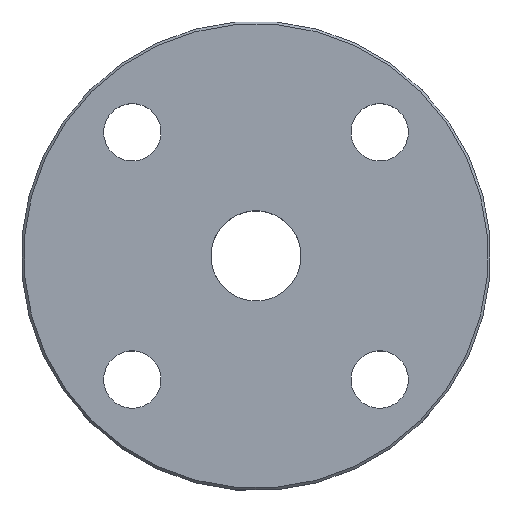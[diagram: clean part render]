
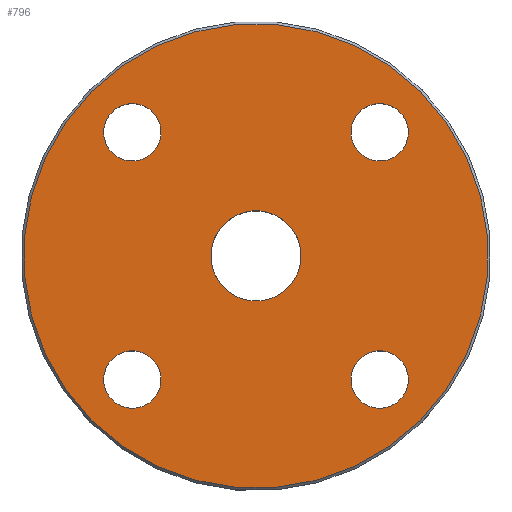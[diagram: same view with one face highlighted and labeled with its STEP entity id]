
A CAD part, top view. The second image highlights one B-rep face of the part: STEP entity #796.
In plain terms, the highlighted planar face has unit normal (0, 0, 1).
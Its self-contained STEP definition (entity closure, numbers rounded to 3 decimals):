
#3 = CARTESIAN_POINT ( 'NONE',  ( -6.114, -6.114, 201. ) ) ;
#6 = CARTESIAN_POINT ( 'NONE',  ( 23.688, 23.688, 201. ) ) ;
#16 = CARTESIAN_POINT ( 'NONE',  ( 31.466, 31.466, 201. ) ) ;
#42 = CIRCLE ( 'NONE', #728, 44.5 ) ;
#45 = CIRCLE ( 'NONE', #843, 5.5 ) ;
#66 = VERTEX_POINT ( 'NONE', #792 ) ;
#67 = CARTESIAN_POINT ( 'NONE',  ( -23.688, -23.688, 201. ) ) ;
#88 = CARTESIAN_POINT ( 'NONE',  ( 23.688, -23.688, 201. ) ) ;
#106 = ORIENTED_EDGE ( 'NONE', *, *, #504, .T. ) ;
#114 = CIRCLE ( 'NONE', #657, 5.5 ) ;
#118 = CARTESIAN_POINT ( 'NONE',  ( -27.577, -27.577, 201. ) ) ;
#123 = CARTESIAN_POINT ( 'NONE',  ( 0., 0., 201. ) ) ;
#126 = CIRCLE ( 'NONE', #691, 5.5 ) ;
#143 = CARTESIAN_POINT ( 'NONE',  ( -23.688, -23.688, 201. ) ) ;
#157 = CARTESIAN_POINT ( 'NONE',  ( 27.577, -27.577, 201. ) ) ;
#165 = CARTESIAN_POINT ( 'NONE',  ( 19.799, -19.799, 201. ) ) ;
#191 = CIRCLE ( 'NONE', #472, 5.5 ) ;
#193 = CARTESIAN_POINT ( 'NONE',  ( 0., 0., 201. ) ) ;
#194 = VERTEX_POINT ( 'NONE', #637 ) ;
#196 = DIRECTION ( 'NONE',  ( 0., 0., -1. ) ) ;
#201 = DIRECTION ( 'NONE',  ( -0.707, -0.707, 0. ) ) ;
#203 = AXIS2_PLACEMENT_3D ( 'NONE', #143, #762, #449 ) ;
#216 = AXIS2_PLACEMENT_3D ( 'NONE', #88, #393, #850 ) ;
#235 = CIRCLE ( 'NONE', #203, 5.5 ) ;
#237 = VERTEX_POINT ( 'NONE', #3 ) ;
#240 = DIRECTION ( 'NONE',  ( 0., 0., -1. ) ) ;
#246 = DIRECTION ( 'NONE',  ( 0., 0., -1. ) ) ;
#247 = EDGE_LOOP ( 'NONE', ( #622, #930 ) ) ;
#253 = CIRCLE ( 'NONE', #741, 5.5 ) ;
#260 = DIRECTION ( 'NONE',  ( 0., 0., 1. ) ) ;
#263 = DIRECTION ( 'NONE',  ( 0., 0., -1. ) ) ;
#268 = CIRCLE ( 'NONE', #893, 44.5 ) ;
#274 = PLANE ( 'NONE',  #338 ) ;
#294 = CIRCLE ( 'NONE', #859, 5.5 ) ;
#296 = VERTEX_POINT ( 'NONE', #903 ) ;
#319 = VERTEX_POINT ( 'NONE', #844 ) ;
#324 = VERTEX_POINT ( 'NONE', #157 ) ;
#330 = ORIENTED_EDGE ( 'NONE', *, *, #757, .T. ) ;
#336 = CIRCLE ( 'NONE', #582, 8.647 ) ;
#337 = CARTESIAN_POINT ( 'NONE',  ( -23.688, 23.688, 201. ) ) ;
#338 = AXIS2_PLACEMENT_3D ( 'NONE', #193, #260, #344 ) ;
#344 = DIRECTION ( 'NONE',  ( -0.707, 0.707, 0. ) ) ;
#350 = CARTESIAN_POINT ( 'NONE',  ( -23.688, 23.688, 201. ) ) ;
#351 = VERTEX_POINT ( 'NONE', #831 ) ;
#364 = CIRCLE ( 'NONE', #929, 8.647 ) ;
#393 = DIRECTION ( 'NONE',  ( 0., 0., -1. ) ) ;
#414 = EDGE_LOOP ( 'NONE', ( #426, #849 ) ) ;
#425 = VERTEX_POINT ( 'NONE', #16 ) ;
#426 = ORIENTED_EDGE ( 'NONE', *, *, #608, .T. ) ;
#433 = EDGE_CURVE ( 'NONE', #425, #66, #42, .T. ) ;
#436 = EDGE_CURVE ( 'NONE', #319, #296, #294, .T. ) ;
#437 = DIRECTION ( 'NONE',  ( 0., 0., -1. ) ) ;
#449 = DIRECTION ( 'NONE',  ( 0.707, 0.707, 0. ) ) ;
#454 = DIRECTION ( 'NONE',  ( 0., 0., -1. ) ) ;
#470 = VERTEX_POINT ( 'NONE', #165 ) ;
#472 = AXIS2_PLACEMENT_3D ( 'NONE', #67, #609, #679 ) ;
#504 = EDGE_CURVE ( 'NONE', #351, #962, #45, .T. ) ;
#508 = EDGE_CURVE ( 'NONE', #784, #194, #235, .T. ) ;
#530 = DIRECTION ( 'NONE',  ( -0.707, 0.707, 0. ) ) ;
#542 = DIRECTION ( 'NONE',  ( 0.707, -0.707, 0. ) ) ;
#559 = ORIENTED_EDGE ( 'NONE', *, *, #436, .T. ) ;
#564 = FACE_BOUND ( 'NONE', #946, .T. ) ;
#581 = EDGE_CURVE ( 'NONE', #324, #470, #126, .T. ) ;
#582 = AXIS2_PLACEMENT_3D ( 'NONE', #586, #437, #968 ) ;
#585 = ORIENTED_EDGE ( 'NONE', *, *, #433, .F. ) ;
#586 = CARTESIAN_POINT ( 'NONE',  ( 0., 0., 201. ) ) ;
#593 = CARTESIAN_POINT ( 'NONE',  ( 0., 0., 201. ) ) ;
#605 = DIRECTION ( 'NONE',  ( -0.707, -0.707, 0. ) ) ;
#608 = EDGE_CURVE ( 'NONE', #194, #784, #191, .T. ) ;
#609 = DIRECTION ( 'NONE',  ( 0., 0., -1. ) ) ;
#616 = ORIENTED_EDGE ( 'NONE', *, *, #636, .F. ) ;
#622 = ORIENTED_EDGE ( 'NONE', *, *, #788, .T. ) ;
#636 = EDGE_CURVE ( 'NONE', #66, #425, #268, .T. ) ;
#637 = CARTESIAN_POINT ( 'NONE',  ( -19.799, -19.799, 201. ) ) ;
#639 = FACE_BOUND ( 'NONE', #876, .T. ) ;
#650 = FACE_BOUND ( 'NONE', #736, .T. ) ;
#651 = EDGE_CURVE ( 'NONE', #470, #324, #964, .T. ) ;
#652 = EDGE_LOOP ( 'NONE', ( #616, #585 ) ) ;
#655 = ORIENTED_EDGE ( 'NONE', *, *, #848, .T. ) ;
#657 = AXIS2_PLACEMENT_3D ( 'NONE', #885, #196, #201 ) ;
#662 = DIRECTION ( 'NONE',  ( 0., 0., -1. ) ) ;
#679 = DIRECTION ( 'NONE',  ( 0.707, 0.707, 0. ) ) ;
#691 = AXIS2_PLACEMENT_3D ( 'NONE', #749, #916, #530 ) ;
#708 = DIRECTION ( 'NONE',  ( -0.707, -0.707, 0. ) ) ;
#709 = VERTEX_POINT ( 'NONE', #727 ) ;
#720 = EDGE_CURVE ( 'NONE', #709, #237, #336, .T. ) ;
#723 = DIRECTION ( 'NONE',  ( -0.707, -0.707, 0. ) ) ;
#727 = CARTESIAN_POINT ( 'NONE',  ( 6.114, 6.114, 201. ) ) ;
#728 = AXIS2_PLACEMENT_3D ( 'NONE', #933, #240, #708 ) ;
#732 = DIRECTION ( 'NONE',  ( 0.707, -0.707, 0. ) ) ;
#736 = EDGE_LOOP ( 'NONE', ( #833, #809 ) ) ;
#741 = AXIS2_PLACEMENT_3D ( 'NONE', #350, #795, #732 ) ;
#749 = CARTESIAN_POINT ( 'NONE',  ( 23.688, -23.688, 201. ) ) ;
#757 = EDGE_CURVE ( 'NONE', #962, #351, #114, .T. ) ;
#762 = DIRECTION ( 'NONE',  ( 0., 0., -1. ) ) ;
#784 = VERTEX_POINT ( 'NONE', #118 ) ;
#788 = EDGE_CURVE ( 'NONE', #237, #709, #364, .T. ) ;
#792 = CARTESIAN_POINT ( 'NONE',  ( -31.466, -31.466, 201. ) ) ;
#795 = DIRECTION ( 'NONE',  ( 0., 0., -1. ) ) ;
#796 = ADVANCED_FACE ( 'NONE', ( #965, #803, #650, #564, #639, #881 ), #274, .T. ) ;
#803 = FACE_BOUND ( 'NONE', #414, .T. ) ;
#809 = ORIENTED_EDGE ( 'NONE', *, *, #581, .T. ) ;
#831 = CARTESIAN_POINT ( 'NONE',  ( 27.577, 27.577, 201. ) ) ;
#833 = ORIENTED_EDGE ( 'NONE', *, *, #651, .T. ) ;
#843 = AXIS2_PLACEMENT_3D ( 'NONE', #6, #662, #900 ) ;
#844 = CARTESIAN_POINT ( 'NONE',  ( -27.577, 27.577, 201. ) ) ;
#848 = EDGE_CURVE ( 'NONE', #296, #319, #253, .T. ) ;
#849 = ORIENTED_EDGE ( 'NONE', *, *, #508, .T. ) ;
#850 = DIRECTION ( 'NONE',  ( -0.707, 0.707, 0. ) ) ;
#859 = AXIS2_PLACEMENT_3D ( 'NONE', #337, #246, #542 ) ;
#876 = EDGE_LOOP ( 'NONE', ( #330, #106 ) ) ;
#881 = FACE_OUTER_BOUND ( 'NONE', #652, .T. ) ;
#885 = CARTESIAN_POINT ( 'NONE',  ( 23.688, 23.688, 201. ) ) ;
#893 = AXIS2_PLACEMENT_3D ( 'NONE', #593, #454, #605 ) ;
#900 = DIRECTION ( 'NONE',  ( -0.707, -0.707, 0. ) ) ;
#903 = CARTESIAN_POINT ( 'NONE',  ( -19.799, 19.799, 201. ) ) ;
#916 = DIRECTION ( 'NONE',  ( 0., 0., -1. ) ) ;
#929 = AXIS2_PLACEMENT_3D ( 'NONE', #123, #263, #723 ) ;
#930 = ORIENTED_EDGE ( 'NONE', *, *, #720, .T. ) ;
#933 = CARTESIAN_POINT ( 'NONE',  ( 0., 0., 201. ) ) ;
#946 = EDGE_LOOP ( 'NONE', ( #655, #559 ) ) ;
#962 = VERTEX_POINT ( 'NONE', #986 ) ;
#964 = CIRCLE ( 'NONE', #216, 5.5 ) ;
#965 = FACE_BOUND ( 'NONE', #247, .T. ) ;
#968 = DIRECTION ( 'NONE',  ( -0.707, -0.707, 0. ) ) ;
#986 = CARTESIAN_POINT ( 'NONE',  ( 19.799, 19.799, 201. ) ) ;
